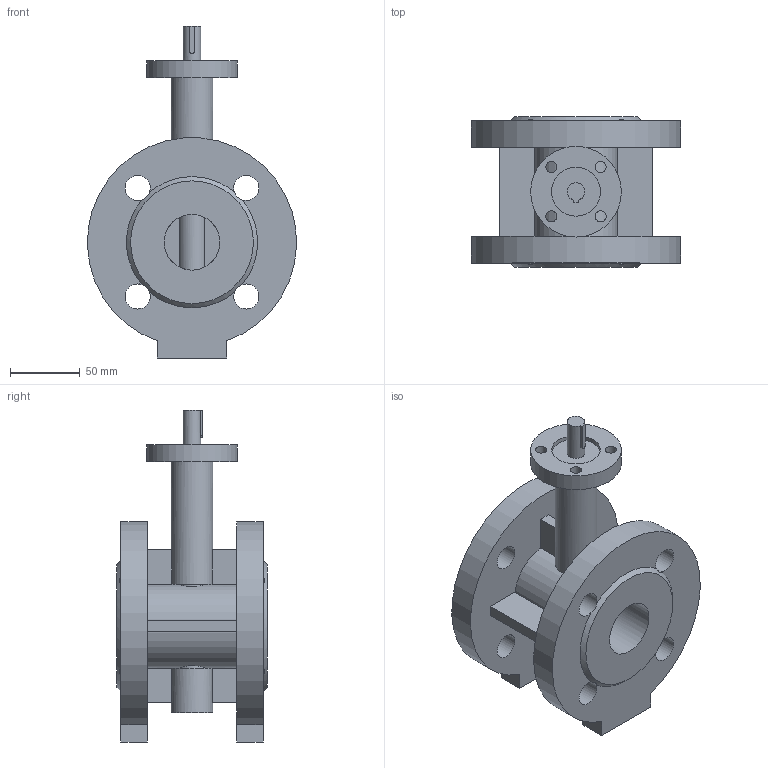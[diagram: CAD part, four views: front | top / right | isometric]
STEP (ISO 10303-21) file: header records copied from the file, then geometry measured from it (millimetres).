
FILE_DESCRIPTION(('STEP AP203'), '1');
FILE_NAME('Çàòâîð 021F.Y DN40 PN10_16 ïîä ÝÏ', '', ('UNSPECIFIED'), ('UNSPECIFIED'), 'ASCON STEP Converter 1.6', 'ASCON Math Kernel', '');
FILE_SCHEMA(('CONFIG_CONTROL_DESIGN'));
Length unit declared in the file: millimetre
Bounding box: 149.87 x 108 x 238 mm (x, y, z)
Volume: 914895.3 mm3; surface area: 148989.9 mm2
Topology: 1 solids, 1 shells, 77 faces, 233 edges, 150 vertices
Faces by surface type: plane 46, cylinder 29, cone 2
Full cylindrical faces by diameter (mm): 8 x4, 12.6 x1, 18 x8, 30 x2, 35 x1, 40 x2, 60 x1, 65 x1
Entity records: 4413 total; most frequent: CARTESIAN_POINT 1691, DIRECTION 421, ORIENTED_EDGE 404, EDGE_CURVE 202, AXIS2_PLACEMENT_3D 160, VERTEX_POINT 146, EDGE_LOOP 136, FACE_BOUND 109
